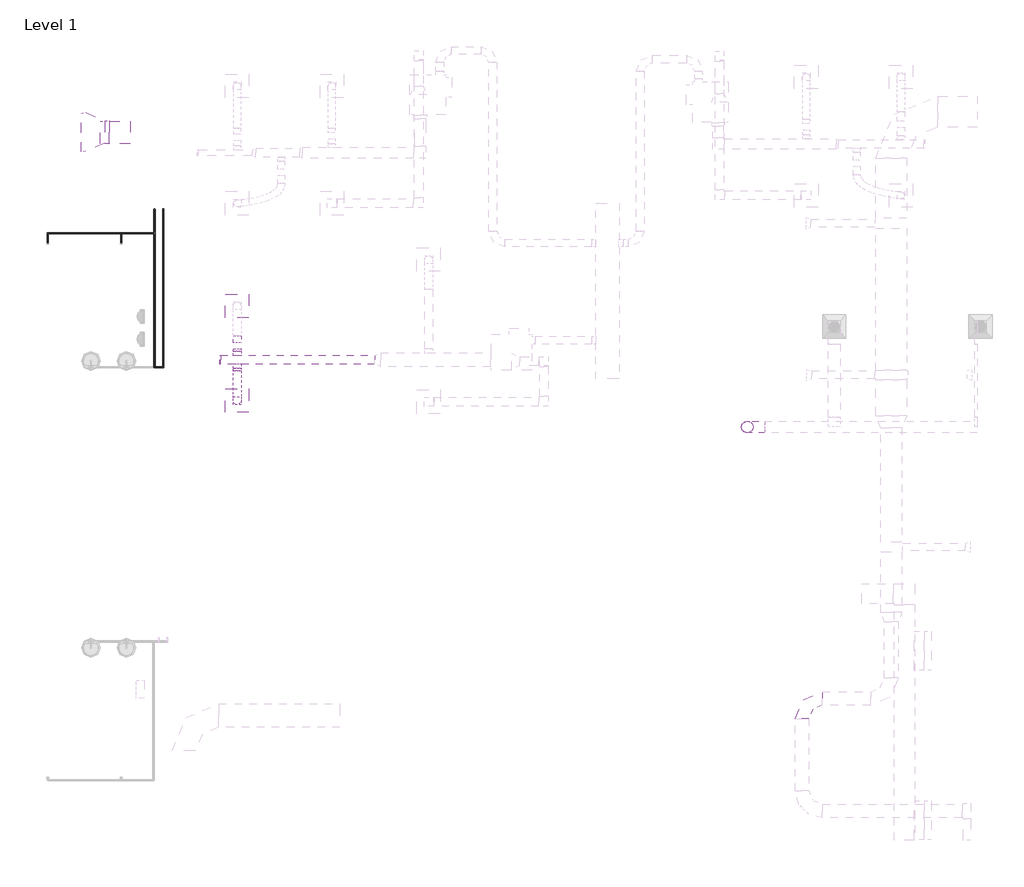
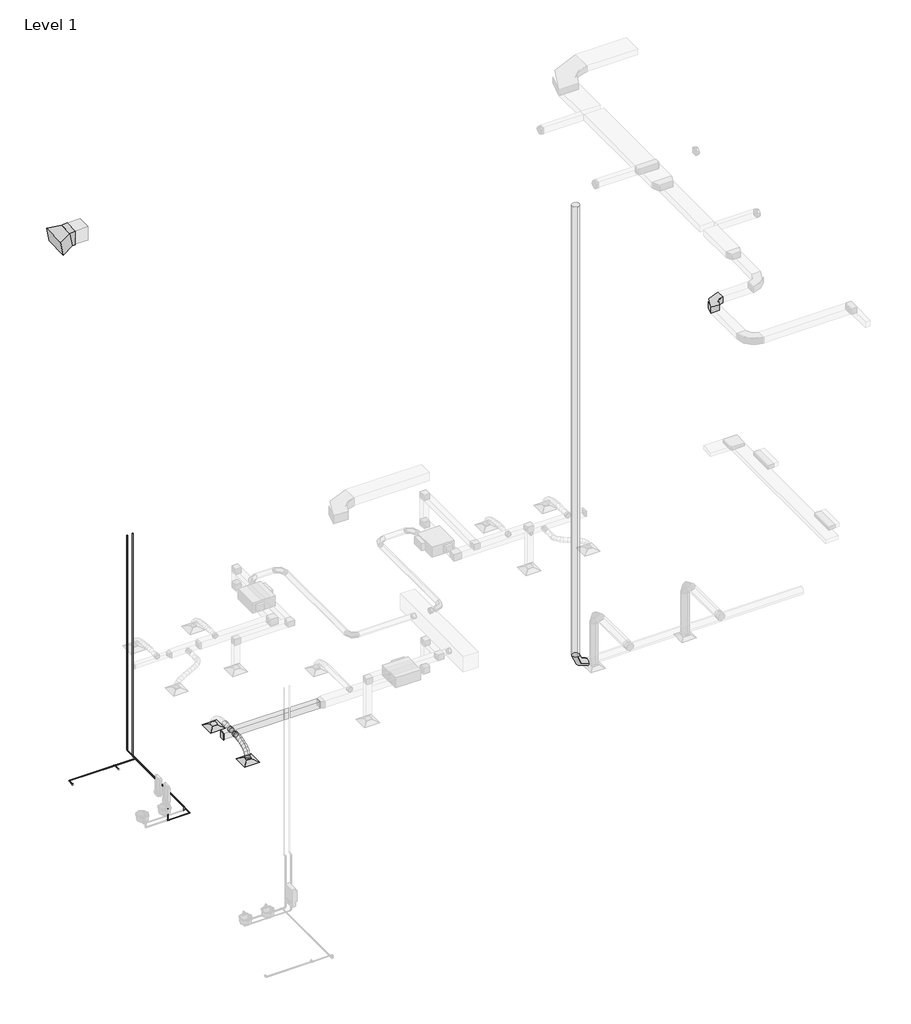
# One storey, part 2 of 7: 12 pipe segments, 11 pipe fittings, 8 duct fittings, 7 duct segments, 2 air terminals.
"""IFC4 building model written with IfcOpenShell, lengths in millimetres."""

from ifc_helpers import new_model, si_unit, point, frame, frame_2d, origin, place, context, project, spatial, polyline, circle_curve, ellipse_curve, trimmed, segment, composite_curve, outline, extrude, transform, mapped, element, save
from ifc_brep_helpers import plane_surface, cylinder_surface, advanced_brep
from components import return_diffuser_24_x_24_face_8_x_8_connection_c93705df, rectangular_elbow_radius_1_5_w_d691a628, rectangular_elbow_radius_1_5_w_30cb73b9, rectangular_endcap_standard_532db283, rectangular_transition_angle_45_degree_ff28eb7c, rectangular_to_round_transition_angle_45_degree_5a025447, round_elbow_1_5_d_ee9da881, round_takeoff_standard_1127d77f, round_takeoff_standard_d3b0d0f9, elbow_generic_standard_c06ac706, tee_generic_standard_d345b28c, transition_generic_standard_702676cc

model = new_model("IFC4")

# Units and contexts
model_context = context("Model", 3, world=origin())
ifc_project = project(units=[si_unit("LENGTHUNIT", "METRE", prefix="MILLI")], contexts=[model_context])

# Site, building, storey
site = spatial("IfcSite", under=ifc_project)
building = spatial("IfcBuilding", under=site)
storey = spatial("IfcBuildingStorey", under=building, Name="Level 1", Elevation=0.0)

# Air terminals
placement = place(None, origin())
return_diffuser_24_x_24_face_8_x_8_connection_shape = return_diffuser_24_x_24_face_8_x_8_connection_c93705df(model_context)
element("IfcAirTerminal", 1, ObjectType="Supply Diffuser : 24 x 24 Face 8 x 8 Connection", at=placement, inside=storey, context=model_context, shape_type="MappedRepresentation", body=[
    mapped(return_diffuser_24_x_24_face_8_x_8_connection_shape, transform((-14620.325255, 10539.2612109, 2438.4), x_axis=(1.0, 0.0, 0.0), y_axis=(0.0, 1.0, 0.0), z_axis=(0.0, 0.0, 1.0))),
])
element("IfcAirTerminal", 2, ObjectType="Supply Diffuser : 24 x 24 Face 8 x 8 Connection", at=placement, inside=storey, context=model_context, shape_type="MappedRepresentation", body=[
    mapped(return_diffuser_24_x_24_face_8_x_8_connection_shape, transform((-14620.325255, 8100.8612109, 2438.4), x_axis=(1.0, 0.0, 0.0), y_axis=(0.0, 1.0, 0.0), z_axis=(0.0, 0.0, 1.0))),
])

# Duct fittings
rectangular_elbow_radius_1_5_w_shape = rectangular_elbow_radius_1_5_w_d691a628(model_context)
element("IfcDuctFitting", 3, ObjectType="Rectangular Elbow - Radius : 1.5 W", at=placement, inside=storey, context=model_context, shape_type="MappedRepresentation", body=[
    mapped(rectangular_elbow_radius_1_5_w_shape, transform((-17998.712755, 15002.6239015, 22343.8), x_axis=(-1.0, 0.0, 0.0), y_axis=(0.0, 0.026356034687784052, -0.999652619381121), z_axis=(0.0, -0.999652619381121, -0.026356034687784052))),
])
rectangular_elbow_radius_1_5_w_2_shape = rectangular_elbow_radius_1_5_w_30cb73b9(model_context)
element("IfcDuctFitting", 4, ObjectType="Rectangular Elbow - Radius : 1.5 W", at=placement, inside=storey, context=model_context, shape_type="MappedRepresentation", body=[
    mapped(rectangular_elbow_radius_1_5_w_2_shape, transform((-86.1432457, 435.7629451, 21983.425), x_axis=(-1.0, 0.0, 0.0), y_axis=(0.0, -0.9999999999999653, 2.636309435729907e-07), z_axis=(0.0, 2.636309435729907e-07, 0.9999999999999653))),
])
rectangular_endcap_standard_shape = rectangular_endcap_standard_532db283(model_context)
element("IfcDuctFitting", 5, ObjectType="Rectangular Endcap : Standard", at=placement, inside=storey, context=model_context, shape_type="MappedRepresentation", body=[
    mapped(rectangular_endcap_standard_shape, transform((-15047.325255, 9153.5998073, 3048.0), x_axis=(-1.0, 0.0, 0.0), y_axis=(0.0, -1.0, 0.0), z_axis=(0.0, 0.0, 1.0))),
])
rectangular_transition_angle_45_degree_shape = rectangular_transition_angle_45_degree_ff28eb7c(model_context)
element("IfcDuctFitting", 6, ObjectType="Rectangular Transition - Angle : 45 Degree", at=placement, inside=storey, context=model_context, shape_type="MappedRepresentation", body=[
    mapped(rectangular_transition_angle_45_degree_shape, transform((-18082.9023685, 15003.0652692, 22327.059455), x_axis=(-0.9807852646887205, 0.005141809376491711, -0.19502263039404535), y_axis=(0.0, -0.9996526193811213, -0.026356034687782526), z_axis=(-0.19509040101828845, -0.02584961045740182, 0.9804445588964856))),
])
rectangular_to_round_transition_angle_45_degree_shape = rectangular_to_round_transition_angle_45_degree_5a025447(model_context)
element("IfcDuctFitting", 7, ObjectType="Rectangular to Round Transition - Angle : 45 Degree", at=placement, inside=storey, context=model_context, shape_type="MappedRepresentation", body=[
    mapped(rectangular_to_round_transition_angle_45_degree_shape, transform((-14620.325255, 8100.8612109, 2540.0), x_axis=(0.0, 0.0, 1.0), y_axis=(-1.0, 0.0, 0.0), z_axis=(0.0, -1.0, 0.0))),
])
round_elbow_1_5_d_shape = round_elbow_1_5_d_ee9da881(model_context)
element("IfcDuctFitting", 8, ObjectType="Round Elbow : 1.5 D", at=placement, inside=storey, context=model_context, shape_type="MappedRepresentation", body=[
    mapped(round_elbow_1_5_d_shape, transform((-1492.3180818, 7422.2278716, 2400.0), x_axis=(-1.0, 0.0, 0.0), y_axis=(0.0, 0.0, 1.0), z_axis=(0.0, 1.0, 0.0))),
])
round_takeoff_standard_shape = round_takeoff_standard_1127d77f(model_context)
element("IfcDuctFitting", 9, ObjectType="Round Takeoff : Standard", at=placement, inside=storey, context=model_context, shape_type="MappedRepresentation", body=[
    mapped(round_takeoff_standard_shape, transform((-14620.325255, 9039.0998073, 3048.0), x_axis=(0.0, -1.0, 0.0), y_axis=(-1.0, 0.0, 0.0), z_axis=(0.0, 0.0, -1.0))),
])
round_takeoff_standard_2_shape = round_takeoff_standard_d3b0d0f9(model_context)
element("IfcDuctFitting", 10, ObjectType="Round Takeoff : Standard", at=placement, inside=storey, context=model_context, shape_type="MappedRepresentation", body=[
    mapped(round_takeoff_standard_2_shape, transform((-14620.325255, 9268.0998073, 3048.0), x_axis=(0.0, 1.0, 0.0), y_axis=(1.0, 0.0, 0.0), z_axis=(0.0, 0.0, -1.0))),
])

# Duct segments
element("IfcDuctSegment", 11, ObjectType="Flex - Round", at=placement, inside=storey, context=model_context, shape_type="AdvancedBrep", body=[
    advanced_brep(
    [(-14518.725255, 8100.8612109, 2590.8), (-14620.325255, 7999.2612109, 2590.8), (-14721.925255, 8100.8612109, 2590.8), (-14620.325255, 8202.4612109, 2590.8), (-14518.725255, 8100.8612109, 2610.4697047), (-14620.325255, 7999.2612109, 2622.626995), (-14721.925255, 8100.8612109, 2610.4697047), (-14620.325255, 8202.4612109, 2598.3124144), (-14518.725255, 8121.5913432, 2695.8515957), (-14620.325255, 8026.7103626, 2735.6827365), (-14721.925255, 8121.5913432, 2695.8515957), (-14620.325255, 8216.4723238, 2656.0204548), (-14518.725255, 8178.7787616, 2787.7324467), (-14620.325255, 8099.959937, 2853.3700428), (-14721.925255, 8178.7787616, 2787.7324467), (-14620.325255, 8257.5975863, 2722.0948506), (-14518.725255, 8264.9189985, 2866.1848403), (-14620.325255, 8203.924368, 2948.0558571), (-14721.925255, 8264.9189985, 2866.1848403), (-14620.325255, 8325.9136289, 2784.3138235), (-14518.725255, 8372.507586, 2930.9510637), (-14620.325255, 8326.4647671, 3021.8227783), (-14721.925255, 8372.507586, 2930.9510637), (-14620.325255, 8418.5504049, 2840.0793491), (-14518.725255, 8494.0400564, 2981.7734042), (-14620.325255, 8460.3492598, 3077.8104765), (-14721.925255, 8494.0400564, 2981.7734042), (-14620.325255, 8527.7308531, 2885.7363319), (-14518.725255, 8622.0119422, 3018.3941489), (-14620.325255, 8599.2333167, 3117.5538745), (-14721.925255, 8622.0119422, 3018.3941489), (-14620.325255, 8644.7905677, 2919.2344233), (-14518.725255, 8748.9187754, 3040.5555851), (-14620.325255, 8736.7751572, 3141.5724766), (-14721.925255, 8748.9187754, 3040.5555851), (-14620.325255, 8761.0623936, 2939.5386936), (-14518.725255, 8860.8772014, 3048.0), (-14620.325255, 8857.503099, 3149.6), (-14721.925255, 8860.8772014, 3048.0), (-14620.325255, 8864.2513038, 2946.4), (-14518.725255, 8867.2560885, 3048.0), (-14620.325255, 8867.2560885, 3149.6), (-14721.925255, 8867.2560885, 3048.0), (-14620.325255, 8867.2560885, 2946.4)],
    [
        (0, 1, circle_curve(frame((-14620.325255, 8100.8612109, 2590.8), z_axis=(0.0, 0.0, -1.0), x_axis=(1.0, 0.0, 0.0)), 101.6)),
        (1, 2, circle_curve(frame((-14620.325255, 8100.8612109, 2590.8), z_axis=(0.0, 0.0, -1.0), x_axis=(1.0, 0.0, 0.0)), 101.6)),
        (2, 3, circle_curve(frame((-14620.325255, 8100.8612109, 2590.8), z_axis=(0.0, 0.0, -1.0), x_axis=(1.0, 0.0, 0.0)), 101.6)),
        (3, 0, circle_curve(frame((-14620.325255, 8100.8612109, 2590.8), z_axis=(0.0, 0.0, -1.0), x_axis=(1.0, 0.0, 0.0)), 101.6)),
        (0, 4),
        (4, 5, ellipse_curve(frame((-14620.325255, 8100.8612109, 2610.4697047), z_axis=(0.0, -0.11881081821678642, -0.9929169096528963), x_axis=(0.0, 0.9929169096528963, -0.11881081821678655)), 102.3247756, 101.6)),
        (5, 1),
        (5, 6, ellipse_curve(frame((-14620.325255, 8100.8612109, 2610.4697047), z_axis=(0.0, -0.11881081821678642, -0.9929169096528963), x_axis=(0.0, 0.9929169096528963, -0.11881081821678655)), 102.3247756, 101.6)),
        (6, 2),
        (6, 7, ellipse_curve(frame((-14620.325255, 8100.8612109, 2610.4697047), z_axis=(0.0, -0.11881081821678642, -0.9929169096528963), x_axis=(0.0, 0.9929169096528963, -0.11881081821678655)), 102.3247756, 101.6)),
        (7, 3),
        (7, 4, ellipse_curve(frame((-14620.325255, 8100.8612109, 2610.4697047), z_axis=(0.0, -0.11881081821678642, -0.9929169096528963), x_axis=(0.0, 0.9929169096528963, -0.11881081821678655)), 102.3247756, 101.6)),
        (4, 8),
        (8, 9, ellipse_curve(frame((-14620.325255, 8121.5913432, 2695.8515957), z_axis=(0.0, -0.3870765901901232, -0.922047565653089), x_axis=(0.0, 0.922047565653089, -0.3870765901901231)), 102.9024794, 101.6)),
        (9, 5),
        (9, 10, ellipse_curve(frame((-14620.325255, 8121.5913432, 2695.8515957), z_axis=(0.0, -0.3870765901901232, -0.922047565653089), x_axis=(0.0, 0.922047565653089, -0.3870765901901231)), 102.9024794, 101.6)),
        (10, 6),
        (10, 11, ellipse_curve(frame((-14620.325255, 8121.5913432, 2695.8515957), z_axis=(0.0, -0.3870765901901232, -0.922047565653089), x_axis=(0.0, 0.922047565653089, -0.3870765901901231)), 102.9024794, 101.6)),
        (11, 7),
        (11, 8, ellipse_curve(frame((-14620.325255, 8121.5913432, 2695.8515957), z_axis=(0.0, -0.3870765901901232, -0.922047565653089), x_axis=(0.0, 0.922047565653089, -0.3870765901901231)), 102.9024794, 101.6)),
        (8, 12),
        (12, 13, ellipse_curve(frame((-14620.325255, 8178.7787616, 2787.7324467), z_axis=(0.0, -0.639926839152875, -0.7684358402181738), x_axis=(0.0, 0.7684358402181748, -0.6399268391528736)), 102.5704692, 101.6)),
        (13, 9),
        (13, 14, ellipse_curve(frame((-14620.325255, 8178.7787616, 2787.7324467), z_axis=(0.0, -0.639926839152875, -0.7684358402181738), x_axis=(0.0, 0.7684358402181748, -0.6399268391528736)), 102.5704692, 101.6)),
        (14, 10),
        (14, 15, ellipse_curve(frame((-14620.325255, 8178.7787616, 2787.7324467), z_axis=(0.0, -0.639926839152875, -0.7684358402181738), x_axis=(0.0, 0.7684358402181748, -0.6399268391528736)), 102.5704692, 101.6)),
        (15, 11),
        (15, 12, ellipse_curve(frame((-14620.325255, 8178.7787616, 2787.7324467), z_axis=(0.0, -0.639926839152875, -0.7684358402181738), x_axis=(0.0, 0.7684358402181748, -0.6399268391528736)), 102.5704692, 101.6)),
        (12, 16),
        (16, 17, ellipse_curve(frame((-14620.325255, 8264.9189985, 2866.1848403), z_axis=(0.0, -0.8019171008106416, -0.5974353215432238), x_axis=(0.0, 0.5974353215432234, -0.801917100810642)), 102.0941151, 101.6)),
        (17, 13),
        (17, 18, ellipse_curve(frame((-14620.325255, 8264.9189985, 2866.1848403), z_axis=(0.0, -0.8019171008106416, -0.5974353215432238), x_axis=(0.0, 0.5974353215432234, -0.801917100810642)), 102.0941151, 101.6)),
        (18, 14),
        (18, 19, ellipse_curve(frame((-14620.325255, 8264.9189985, 2866.1848403), z_axis=(0.0, -0.8019171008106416, -0.5974353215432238), x_axis=(0.0, 0.5974353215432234, -0.801917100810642)), 102.0941151, 101.6)),
        (19, 15),
        (19, 16, ellipse_curve(frame((-14620.325255, 8264.9189985, 2866.1848403), z_axis=(0.0, -0.8019171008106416, -0.5974353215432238), x_axis=(0.0, 0.5974353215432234, -0.801917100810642)), 102.0941151, 101.6)),
        (16, 20),
        (20, 21, ellipse_curve(frame((-14620.325255, 8372.507586, 2930.9510637), z_axis=(0.0, -0.8920312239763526, -0.4519737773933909), x_axis=(0.0, 0.4519737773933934, -0.8920312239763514)), 101.8705536, 101.6)),
        (21, 17),
        (21, 22, ellipse_curve(frame((-14620.325255, 8372.507586, 2930.9510637), z_axis=(0.0, -0.8920312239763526, -0.4519737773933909), x_axis=(0.0, 0.4519737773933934, -0.8920312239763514)), 101.8705536, 101.6)),
        (22, 18),
        (22, 23, ellipse_curve(frame((-14620.325255, 8372.507586, 2930.9510637), z_axis=(0.0, -0.8920312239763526, -0.4519737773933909), x_axis=(0.0, 0.4519737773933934, -0.8920312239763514)), 101.8705536, 101.6)),
        (23, 19),
        (23, 20, ellipse_curve(frame((-14620.325255, 8372.507586, 2930.9510637), z_axis=(0.0, -0.8920312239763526, -0.4519737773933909), x_axis=(0.0, 0.4519737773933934, -0.8920312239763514)), 101.8705536, 101.6)),
        (20, 24),
        (24, 25, ellipse_curve(frame((-14620.325255, 8494.0400564, 2981.7734042), z_axis=(0.0, -0.9436196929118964, -0.3310315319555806), x_axis=(0.0, 0.3310315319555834, -0.9436196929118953)), 101.7751887, 101.6)),
        (25, 21),
        (25, 26, ellipse_curve(frame((-14620.325255, 8494.0400564, 2981.7734042), z_axis=(0.0, -0.9436196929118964, -0.3310315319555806), x_axis=(0.0, 0.3310315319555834, -0.9436196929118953)), 101.7751887, 101.6)),
        (26, 22),
        (26, 27, ellipse_curve(frame((-14620.325255, 8494.0400564, 2981.7734042), z_axis=(0.0, -0.9436196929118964, -0.3310315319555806), x_axis=(0.0, 0.3310315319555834, -0.9436196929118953)), 101.7751887, 101.6)),
        (27, 23),
        (27, 24, ellipse_curve(frame((-14620.325255, 8494.0400564, 2981.7734042), z_axis=(0.0, -0.9436196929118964, -0.3310315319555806), x_axis=(0.0, 0.3310315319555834, -0.9436196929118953)), 101.7751887, 101.6)),
        (24, 28),
        (28, 29, ellipse_curve(frame((-14620.325255, 8622.0119422, 3018.3941489), z_axis=(0.0, -0.9746155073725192, -0.22388526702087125), x_axis=(0.0, 0.22388526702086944, -0.9746155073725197)), 101.7424049, 101.6)),
        (29, 25),
        (29, 30, ellipse_curve(frame((-14620.325255, 8622.0119422, 3018.3941489), z_axis=(0.0, -0.9746155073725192, -0.22388526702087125), x_axis=(0.0, 0.22388526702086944, -0.9746155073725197)), 101.7424049, 101.6)),
        (30, 26),
        (30, 31, ellipse_curve(frame((-14620.325255, 8622.0119422, 3018.3941489), z_axis=(0.0, -0.9746155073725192, -0.22388526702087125), x_axis=(0.0, 0.22388526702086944, -0.9746155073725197)), 101.7424049, 101.6)),
        (31, 27),
        (31, 28, ellipse_curve(frame((-14620.325255, 8622.0119422, 3018.3941489), z_axis=(0.0, -0.9746155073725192, -0.22388526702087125), x_axis=(0.0, 0.22388526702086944, -0.9746155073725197)), 101.7424049, 101.6)),
        (28, 32),
        (32, 33, ellipse_curve(frame((-14620.325255, 8748.9187754, 3040.5555851), z_axis=(0.0, -0.9928517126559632, -0.11935441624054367), x_axis=(0.0, 0.11935441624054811, -0.9928517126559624)), 101.7441882, 101.6)),
        (33, 29),
        (33, 34, ellipse_curve(frame((-14620.325255, 8748.9187754, 3040.5555851), z_axis=(0.0, -0.9928517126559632, -0.11935441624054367), x_axis=(0.0, 0.11935441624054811, -0.9928517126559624)), 101.7441882, 101.6)),
        (34, 30),
        (34, 35, ellipse_curve(frame((-14620.325255, 8748.9187754, 3040.5555851), z_axis=(0.0, -0.9928517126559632, -0.11935441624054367), x_axis=(0.0, 0.11935441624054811, -0.9928517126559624)), 101.7441882, 101.6)),
        (35, 31),
        (35, 32, ellipse_curve(frame((-14620.325255, 8748.9187754, 3040.5555851), z_axis=(0.0, -0.9928517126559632, -0.11935441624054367), x_axis=(0.0, 0.11935441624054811, -0.9928517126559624)), 101.7441882, 101.6)),
        (32, 36),
        (36, 37, ellipse_curve(frame((-14620.325255, 8860.8772014, 3048.0), z_axis=(0.0, -0.9994490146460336, -0.0331913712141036), x_axis=(0.0, 0.03319137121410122, -0.9994490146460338)), 101.656011, 101.6)),
        (37, 33),
        (37, 38, ellipse_curve(frame((-14620.325255, 8860.8772014, 3048.0), z_axis=(0.0, -0.9994490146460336, -0.0331913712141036), x_axis=(0.0, 0.03319137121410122, -0.9994490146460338)), 101.656011, 101.6)),
        (38, 34),
        (38, 39, ellipse_curve(frame((-14620.325255, 8860.8772014, 3048.0), z_axis=(0.0, -0.9994490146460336, -0.0331913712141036), x_axis=(0.0, 0.03319137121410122, -0.9994490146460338)), 101.656011, 101.6)),
        (39, 35),
        (39, 36, ellipse_curve(frame((-14620.325255, 8860.8772014, 3048.0), z_axis=(0.0, -0.9994490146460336, -0.0331913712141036), x_axis=(0.0, 0.03319137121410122, -0.9994490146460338)), 101.656011, 101.6)),
        (36, 40),
        (40, 41, circle_curve(frame((-14620.325255, 8867.2560885, 3048.0), z_axis=(0.0, -1.0, 0.0), x_axis=(1.0, 0.0, 0.0)), 101.6)),
        (41, 37),
        (41, 42, circle_curve(frame((-14620.325255, 8867.2560885, 3048.0), z_axis=(0.0, -1.0, 0.0), x_axis=(1.0, 0.0, 0.0)), 101.6)),
        (42, 38),
        (42, 43, circle_curve(frame((-14620.325255, 8867.2560885, 3048.0), z_axis=(0.0, -1.0, 0.0), x_axis=(1.0, 0.0, 0.0)), 101.6)),
        (43, 39),
        (43, 40, circle_curve(frame((-14620.325255, 8867.2560885, 3048.0), z_axis=(0.0, -1.0, 0.0), x_axis=(1.0, 0.0, 0.0)), 101.6)),
    ],
    [
        plane_surface(frame((-14620.325255, 7999.2612109, 2590.8), z_axis=(0.0, 0.0, -1.0), x_axis=(1.0, 0.0, 0.0))),
        cylinder_surface(frame((-14620.325255, 8100.8612109, 2590.8), z_axis=(0.0, 0.0, -1.0), x_axis=(1.0, 0.0, 0.0)), 101.6),
        cylinder_surface(frame((-14620.325255, 8100.8612109, 2610.4697047), z_axis=(0.0, -0.2359385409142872, -0.9717679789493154), x_axis=(1.0, 0.0, 0.0)), 101.6),
        cylinder_surface(frame((-14620.325255, 8121.5913432, 2695.8515957), z_axis=(0.0, -0.5284158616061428, -0.8489856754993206), x_axis=(1.0, 0.0, 0.0)), 101.6),
        cylinder_surface(frame((-14620.325255, 8178.7787616, 2787.7324467), z_axis=(0.0, -0.7393284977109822, -0.6733449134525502), x_axis=(1.0, 0.0, 0.0)), 101.6),
        cylinder_surface(frame((-14620.325255, 8264.9189985, 2866.1848403), z_axis=(0.0, -0.8567434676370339, -0.5157427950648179), x_axis=(1.0, 0.0, 0.0)), 101.6),
        cylinder_surface(frame((-14620.325255, 8372.507586, 2930.9510637), z_axis=(0.0, -0.9225807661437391, -0.38580400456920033), x_axis=(1.0, 0.0, 0.0)), 101.6),
        cylinder_surface(frame((-14620.325255, 8494.0400564, 2981.7734042), z_axis=(0.0, -0.9614100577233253, -0.27511943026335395), x_axis=(1.0, 0.0, 0.0)), 101.6),
        cylinder_surface(frame((-14620.325255, 8622.0119422, 3018.3941489), z_axis=(0.0, -0.9850926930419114, -0.17202437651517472), x_axis=(1.0, 0.0, 0.0)), 101.6),
        cylinder_surface(frame((-14620.325255, 8748.9187754, 3040.5555851), z_axis=(0.0, -0.9977966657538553, -0.06634616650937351), x_axis=(1.0, 0.0, 0.0)), 101.6),
        cylinder_surface(frame((-14620.325255, 8860.8772014, 3048.0), z_axis=(0.0, -1.0, 0.0), x_axis=(1.0, 0.0, 0.0)), 101.6),
        plane_surface(frame((-14721.925255, 8867.2560885, 3048.0), z_axis=(0.0, 1.0, 0.0), x_axis=(0.0, 0.0, 1.0))),
    ],
    [
        (0, [[1, 2, 3, 4]]),
        (1, [[-1, 5, 6, 7]]),
        (1, [[-2, -7, 8, 9]]),
        (1, [[-3, -9, 10, 11]]),
        (1, [[-4, -11, 12, -5]]),
        (2, [[-6, 13, 14, 15]]),
        (2, [[-8, -15, 16, 17]]),
        (2, [[-10, -17, 18, 19]]),
        (2, [[-12, -19, 20, -13]]),
        (3, [[-14, 21, 22, 23]]),
        (3, [[-16, -23, 24, 25]]),
        (3, [[-18, -25, 26, 27]]),
        (3, [[-20, -27, 28, -21]]),
        (4, [[-22, 29, 30, 31]]),
        (4, [[-24, -31, 32, 33]]),
        (4, [[-26, -33, 34, 35]]),
        (4, [[-28, -35, 36, -29]]),
        (5, [[-30, 37, 38, 39]]),
        (5, [[-32, -39, 40, 41]]),
        (5, [[-34, -41, 42, 43]]),
        (5, [[-36, -43, 44, -37]]),
        (6, [[-38, 45, 46, 47]]),
        (6, [[-40, -47, 48, 49]]),
        (6, [[-42, -49, 50, 51]]),
        (6, [[-44, -51, 52, -45]]),
        (7, [[-46, 53, 54, 55]]),
        (7, [[-48, -55, 56, 57]]),
        (7, [[-50, -57, 58, 59]]),
        (7, [[-52, -59, 60, -53]]),
        (8, [[-54, 61, 62, 63]]),
        (8, [[-56, -63, 64, 65]]),
        (8, [[-58, -65, 66, 67]]),
        (8, [[-60, -67, 68, -61]]),
        (9, [[-62, 69, 70, 71]]),
        (9, [[-64, -71, 72, 73]]),
        (9, [[-66, -73, 74, 75]]),
        (9, [[-68, -75, 76, -69]]),
        (10, [[-70, 77, 78, 79]]),
        (10, [[-72, -79, 80, 81]]),
        (10, [[-74, -81, 82, 83]]),
        (10, [[-76, -83, 84, -77]]),
        (11, [[-84, -82, -80, -78]]),
    ],
),
])
element("IfcDuctSegment", 12, ObjectType="Mitered Elbows / Tees", at=placement, inside=storey, context=model_context, shape_type="SweptSolid", body=[
    extrude(outline(polyline([(-15047.325255, 9039.0998073), (-15047.325255, 9268.0998073), (-11083.4021344, 9268.0998073), (-11083.4021344, 9039.0998073), (-15047.325255, 9039.0998073)])), frame((0.0, 0.0, 2908.5), z_axis=(0.0, 0.0, 1.0), x_axis=(1.0, 0.0, 0.0)), (0.0, 0.0, 1.0), 279.0),
])
element("IfcDuctSegment", 13, ObjectType="Radius Elbows / Taps", at=placement, inside=storey, context=model_context, shape_type="SweptSolid", body=[
    extrude(outline(polyline([(-17375.0230245, 15293.1364015), (-17375.0230245, 14712.1114015), (-17912.8737681, 14712.1114015), (-17912.8737681, 15293.1364015), (-17375.0230245, 15293.1364015)])), frame((0.0, 0.0, 22053.2875), z_axis=(0.0, 0.0, 1.0), x_axis=(1.0, 0.0, 0.0)), (0.0, 0.0, 1.0), 581.025),
])
element("IfcDuctSegment", 14, ObjectType="Taps", at=placement, inside=storey, context=model_context, shape_type="SweptSolid", body=[
    extrude(outline(composite_curve([segment(trimmed(circle_curve(frame_2d((-1492.3180818, 7422.2278716)), 150.0), [point((-1492.3180818, 7272.2278716))], [point((-1642.3180818, 7422.2278716))], False, "CARTESIAN"), True, "CONTINUOUS"), segment(trimmed(circle_curve(frame_2d((-1492.3180818, 7422.2278716)), 150.0), [point((-1642.3180818, 7422.2278716))], [point((-1492.3180818, 7572.2278716))], False, "CARTESIAN"), True, "CONTINUOUS"), segment(trimmed(circle_curve(frame_2d((-1492.3180818, 7422.2278716)), 150.0), [point((-1492.3180818, 7572.2278716))], [point((-1342.3180818, 7422.2278716))], False, "CARTESIAN"), True, "CONTINUOUS"), segment(trimmed(circle_curve(frame_2d((-1492.3180818, 7422.2278716)), 150.0), [point((-1342.3180818, 7422.2278716))], [point((-1492.3180818, 7272.2278716))], False, "CARTESIAN"), True, "CONTINUOUS")], self_intersect=False)), frame((0.0, 0.0, 2850.0), z_axis=(0.0, 0.0, 1.0), x_axis=(1.0, 0.0, 0.0)), (0.0, 0.0, 1.0), 19591.8),
])
element("IfcDuctSegment", 15, ObjectType="Taps", at=placement, inside=storey, context=model_context, shape_type="SweptSolid", body=[
    extrude(outline(composite_curve([segment(trimmed(circle_curve(frame_2d((3048.0, -14620.325255)), 101.6), [point((3048.0, -14721.925255))], [point((2946.4, -14620.325255))], False, "CARTESIAN"), True, "CONTINUOUS"), segment(trimmed(circle_curve(frame_2d((3048.0, -14620.325255)), 101.6), [point((2946.4, -14620.325255))], [point((3048.0, -14518.725255))], False, "CARTESIAN"), True, "CONTINUOUS"), segment(trimmed(circle_curve(frame_2d((3048.0, -14620.325255)), 101.6), [point((3048.0, -14518.725255))], [point((3149.6, -14620.325255))], False, "CARTESIAN"), True, "CONTINUOUS"), segment(trimmed(circle_curve(frame_2d((3048.0, -14620.325255)), 101.6), [point((3149.6, -14620.325255))], [point((3048.0, -14721.925255))], False, "CARTESIAN"), True, "CONTINUOUS")], self_intersect=False)), frame((0.0, 8867.2560885, 0.0), z_axis=(0.0, 1.0, 0.0), x_axis=(0.0, 0.0, 1.0)), (0.0, 0.0, 1.0), 70.2437188),
])
element("IfcDuctSegment", 16, ObjectType="Taps", at=placement, inside=storey, context=model_context, shape_type="SweptSolid", body=[
    extrude(outline(composite_curve([segment(trimmed(circle_curve(frame_2d((3048.0, -14620.325255)), 101.6), [point((3048.0, -14518.725255))], [point((3149.6, -14620.325255))], False, "CARTESIAN"), True, "CONTINUOUS"), segment(trimmed(circle_curve(frame_2d((3048.0, -14620.325255)), 101.6), [point((3149.6, -14620.325255))], [point((3048.0, -14721.925255))], False, "CARTESIAN"), True, "CONTINUOUS"), segment(trimmed(circle_curve(frame_2d((3048.0, -14620.325255)), 101.6), [point((3048.0, -14721.925255))], [point((2946.4, -14620.325255))], False, "CARTESIAN"), True, "CONTINUOUS"), segment(trimmed(circle_curve(frame_2d((3048.0, -14620.325255)), 101.6), [point((2946.4, -14620.325255))], [point((3048.0, -14518.725255))], False, "CARTESIAN"), True, "CONTINUOUS")], self_intersect=False)), frame((0.0, 9595.0122763, 0.0), z_axis=(0.0, 1.0, 0.0), x_axis=(0.0, 0.0, 1.0)), (0.0, 0.0, 1.0), 177.8540571),
])
element("IfcDuctSegment", 17, ObjectType="Taps", at=placement, inside=storey, context=model_context, shape_type="SweptSolid", body=[
    extrude(outline(composite_curve([segment(trimmed(circle_curve(frame_2d((3048.0, -14620.325255)), 101.6), [point((3048.0, -14518.725255))], [point((3149.6, -14620.325255))], False, "CARTESIAN"), True, "CONTINUOUS"), segment(trimmed(circle_curve(frame_2d((3048.0, -14620.325255)), 101.6), [point((3149.6, -14620.325255))], [point((3048.0, -14721.925255))], False, "CARTESIAN"), True, "CONTINUOUS"), segment(trimmed(circle_curve(frame_2d((3048.0, -14620.325255)), 101.6), [point((3048.0, -14721.925255))], [point((2946.4, -14620.325255))], False, "CARTESIAN"), True, "CONTINUOUS"), segment(trimmed(circle_curve(frame_2d((3048.0, -14620.325255)), 101.6), [point((2946.4, -14620.325255))], [point((3048.0, -14518.725255))], False, "CARTESIAN"), True, "CONTINUOUS")], self_intersect=False)), frame((0.0, 9369.6998073, 0.0), z_axis=(0.0, 1.0, 0.0), x_axis=(0.0, 0.0, 1.0)), (0.0, 0.0, 1.0), 72.9124689),
])

# Pipe fittings
elbow_generic_standard_shape = elbow_generic_standard_c06ac706(model_context)
element("IfcPipeFitting", 18, ObjectType="Elbow - Generic : Standard", at=placement, inside=storey, context=model_context, shape_type="MappedRepresentation", body=[
    mapped(elbow_generic_standard_shape, transform((-19498.712755, 12414.0612109, 646.0), x_axis=(-1.0, 0.0, 0.0), y_axis=(0.0, -1.0, 0.0), z_axis=(0.0, 0.0, 1.0))),
])
element("IfcPipeFitting", 19, ObjectType="Elbow - Generic : Standard", at=placement, inside=storey, context=model_context, shape_type="MappedRepresentation", body=[
    mapped(elbow_generic_standard_shape, transform((-16747.2516493, 13027.3987109, 646.0), x_axis=(0.0, 1.0, 0.0), y_axis=(0.0, 0.0, 1.0), z_axis=(1.0, 0.0, 0.0))),
])
element("IfcPipeFitting", 20, ObjectType="Elbow - Generic : Standard", at=placement, inside=storey, context=model_context, shape_type="MappedRepresentation", body=[
    mapped(elbow_generic_standard_shape, transform((-16747.2516493, 8956.675, 500.0), x_axis=(1.0, 0.0, 0.0), y_axis=(0.0, 0.0, 1.0), z_axis=(0.0, -1.0, 0.0))),
])
element("IfcPipeFitting", 21, ObjectType="Elbow - Generic : Standard", at=placement, inside=storey, context=model_context, shape_type="MappedRepresentation", body=[
    mapped(elbow_generic_standard_shape, transform((-16747.2516493, 8956.675, 646.0), x_axis=(0.0, 0.0, 1.0), y_axis=(0.0, 1.0, 0.0), z_axis=(-1.0, 0.0, 0.0))),
])
element("IfcPipeFitting", 22, ObjectType="Elbow - Generic : Standard", at=placement, inside=storey, context=model_context, shape_type="MappedRepresentation", body=[
    mapped(elbow_generic_standard_shape, transform((-16518.1918948, 8956.675, 300.0), x_axis=(1.0, 0.0, 0.0), y_axis=(0.0, 1.0, 0.0), z_axis=(0.0, 0.0, 1.0))),
])
element("IfcPipeFitting", 23, ObjectType="Elbow - Generic : Standard", at=placement, inside=storey, context=model_context, shape_type="MappedRepresentation", body=[
    mapped(elbow_generic_standard_shape, transform((-16518.1918948, 13027.3987109, 300.0), x_axis=(0.0, 1.0, 0.0), y_axis=(0.0, 0.0, 1.0), z_axis=(1.0, 0.0, 0.0))),
])
tee_generic_standard_shape = tee_generic_standard_d345b28c(model_context)
element("IfcPipeFitting", 24, ObjectType="Tee - Generic : Standard", at=placement, inside=storey, context=model_context, shape_type="MappedRepresentation", body=[
    mapped(tee_generic_standard_shape, transform((-17419.087755, 8956.675, 300.0), x_axis=(1.0, 0.0, 0.0), y_axis=(0.0, 0.0, -1.0), z_axis=(0.0, 1.0, 0.0))),
])
element("IfcPipeFitting", 25, ObjectType="Tee - Generic : Standard", at=placement, inside=storey, context=model_context, shape_type="MappedRepresentation", body=[
    mapped(tee_generic_standard_shape, transform((-17606.9391493, 12414.0612109, 646.0), x_axis=(1.0, 0.0, 0.0), y_axis=(0.0, 1.0, 0.0), z_axis=(0.0, 0.0, 1.0))),
])
element("IfcPipeFitting", 26, ObjectType="Tee - Generic : Standard", at=placement, inside=storey, context=model_context, shape_type="MappedRepresentation", body=[
    mapped(tee_generic_standard_shape, transform((-16747.2516493, 12414.0612109, 646.0), x_axis=(0.0, -1.0, 0.0), y_axis=(1.0, 0.0, 0.0), z_axis=(0.0, 0.0, 1.0))),
])
transition_generic_standard_shape = transition_generic_standard_702676cc(model_context)
element("IfcPipeFitting", 27, ObjectType="Transition - Generic : Standard", at=placement, inside=storey, context=model_context, shape_type="MappedRepresentation", body=[
    mapped(transition_generic_standard_shape, transform((-19498.712755, 12147.3987109, 646.0), x_axis=(0.0, 1.0, 0.0), y_axis=(-1.0, 0.0, 0.0), z_axis=(0.0, 0.0, 1.0))),
])
element("IfcPipeFitting", 28, ObjectType="Transition - Generic : Standard", at=placement, inside=storey, context=model_context, shape_type="MappedRepresentation", body=[
    mapped(transition_generic_standard_shape, transform((-17606.9391493, 12147.3987109, 646.0), x_axis=(0.0, 1.0, 0.0), y_axis=(-1.0, 0.0, 0.0), z_axis=(0.0, 0.0, 1.0))),
])

# Pipe segments
element("IfcPipeSegment", 29, ObjectType="Standard", at=placement, inside=storey, context=model_context, shape_type="SweptSolid", body=[
    extrude(outline(composite_curve([segment(trimmed(circle_curve(frame_2d((646.0, -17606.9391493)), 14.2875), [point((646.0, -17621.2266493))], [point((631.7125, -17606.9391493))], False, "CARTESIAN"), True, "CONTINUOUS"), segment(trimmed(circle_curve(frame_2d((646.0, -17606.9391493)), 14.2875), [point((631.7125, -17606.9391493))], [point((646.0, -17592.6516493))], False, "CARTESIAN"), True, "CONTINUOUS"), segment(trimmed(circle_curve(frame_2d((646.0, -17606.9391493)), 14.2875), [point((646.0, -17592.6516493))], [point((660.2875, -17606.9391493))], False, "CARTESIAN"), True, "CONTINUOUS"), segment(trimmed(circle_curve(frame_2d((646.0, -17606.9391493)), 14.2875), [point((660.2875, -17606.9391493))], [point((646.0, -17621.2266493))], False, "CARTESIAN"), True, "CONTINUOUS")], self_intersect=False)), frame((0.0, 12160.8924609, 0.0), z_axis=(0.0, 1.0, 0.0), x_axis=(0.0, 0.0, 1.0)), (0.0, 0.0, 1.0), 226.18125),
])
element("IfcPipeSegment", 30, ObjectType="Standard", at=placement, inside=storey, context=model_context, shape_type="SweptSolid", body=[
    extrude(outline(composite_curve([segment(trimmed(circle_curve(frame_2d((646.0, -19498.712755)), 14.2875), [point((646.0, -19513.000255))], [point((631.7125, -19498.712755))], False, "CARTESIAN"), True, "CONTINUOUS"), segment(trimmed(circle_curve(frame_2d((646.0, -19498.712755)), 14.2875), [point((631.7125, -19498.712755))], [point((646.0, -19484.425255))], False, "CARTESIAN"), True, "CONTINUOUS"), segment(trimmed(circle_curve(frame_2d((646.0, -19498.712755)), 14.2875), [point((646.0, -19484.425255))], [point((660.2875, -19498.712755))], False, "CARTESIAN"), True, "CONTINUOUS"), segment(trimmed(circle_curve(frame_2d((646.0, -19498.712755)), 14.2875), [point((660.2875, -19498.712755))], [point((646.0, -19513.000255))], False, "CARTESIAN"), True, "CONTINUOUS")], self_intersect=False)), frame((0.0, 12160.8924609, 0.0), z_axis=(0.0, 1.0, 0.0), x_axis=(0.0, 0.0, 1.0)), (0.0, 0.0, 1.0), 232.53125),
])
element("IfcPipeSegment", 31, ObjectType="Standard", at=placement, inside=storey, context=model_context, shape_type="SweptSolid", body=[
    extrude(outline(composite_curve([segment(trimmed(circle_curve(frame_2d((-17419.087755, 8956.675)), 14.2875), [point((-17404.800255, 8956.675))], [point((-17419.087755, 8942.3875))], False, "CARTESIAN"), True, "CONTINUOUS"), segment(trimmed(circle_curve(frame_2d((-17419.087755, 8956.675)), 14.2875), [point((-17419.087755, 8942.3875))], [point((-17433.375255, 8956.675))], False, "CARTESIAN"), True, "CONTINUOUS"), segment(trimmed(circle_curve(frame_2d((-17419.087755, 8956.675)), 14.2875), [point((-17433.375255, 8956.675))], [point((-17419.087755, 8970.9625))], False, "CARTESIAN"), True, "CONTINUOUS"), segment(trimmed(circle_curve(frame_2d((-17419.087755, 8956.675)), 14.2875), [point((-17419.087755, 8970.9625))], [point((-17404.800255, 8956.675))], False, "CARTESIAN"), True, "CONTINUOUS")], self_intersect=False)), frame((0.0, 0.0, 326.9875), z_axis=(0.0, 0.0, 1.0), x_axis=(1.0, 0.0, 0.0)), (0.0, 0.0, 1.0), 469.9375),
])
element("IfcPipeSegment", 32, ObjectType="Standard", at=placement, inside=storey, context=model_context, shape_type="SweptSolid", body=[
    extrude(outline(composite_curve([segment(trimmed(circle_curve(frame_2d((8956.675, 300.0)), 14.2875), [point((8970.9625, 300.0))], [point((8956.675, 285.7125))], False, "CARTESIAN"), True, "CONTINUOUS"), segment(trimmed(circle_curve(frame_2d((8956.675, 300.0)), 14.2875), [point((8956.675, 285.7125))], [point((8942.3875, 300.0))], False, "CARTESIAN"), True, "CONTINUOUS"), segment(trimmed(circle_curve(frame_2d((8956.675, 300.0)), 14.2875), [point((8942.3875, 300.0))], [point((8956.675, 314.2875))], False, "CARTESIAN"), True, "CONTINUOUS"), segment(trimmed(circle_curve(frame_2d((8956.675, 300.0)), 14.2875), [point((8956.675, 314.2875))], [point((8970.9625, 300.0))], False, "CARTESIAN"), True, "CONTINUOUS")], self_intersect=False)), frame((-17392.100255, 0.0, 0.0), z_axis=(1.0, 0.0, 0.0), x_axis=(0.0, 1.0, 0.0)), (0.0, 0.0, 1.0), 853.2708601),
])
element("IfcPipeSegment", 33, ObjectType="Standard", at=placement, inside=storey, context=model_context, shape_type="SweptSolid", body=[
    extrude(outline(composite_curve([segment(trimmed(circle_curve(frame_2d((12414.0612109, 646.0)), 14.2875), [point((12428.3487109, 646.0))], [point((12414.0612109, 631.7125))], False, "CARTESIAN"), True, "CONTINUOUS"), segment(trimmed(circle_curve(frame_2d((12414.0612109, 646.0)), 14.2875), [point((12414.0612109, 631.7125))], [point((12399.7737109, 646.0))], False, "CARTESIAN"), True, "CONTINUOUS"), segment(trimmed(circle_curve(frame_2d((12414.0612109, 646.0)), 14.2875), [point((12399.7737109, 646.0))], [point((12414.0612109, 660.2875))], False, "CARTESIAN"), True, "CONTINUOUS"), segment(trimmed(circle_curve(frame_2d((12414.0612109, 646.0)), 14.2875), [point((12414.0612109, 660.2875))], [point((12428.3487109, 646.0))], False, "CARTESIAN"), True, "CONTINUOUS")], self_intersect=False)), frame((-19478.075255, 0.0, 0.0), z_axis=(1.0, 0.0, 0.0), x_axis=(0.0, 1.0, 0.0)), (0.0, 0.0, 1.0), 1844.1486057),
])
element("IfcPipeSegment", 34, ObjectType="Standard", at=placement, inside=storey, context=model_context, shape_type="SweptSolid", body=[
    extrude(outline(composite_curve([segment(trimmed(circle_curve(frame_2d((12414.0612109, 646.0)), 14.2875), [point((12399.7737109, 646.0))], [point((12414.0612109, 660.2875))], False, "CARTESIAN"), True, "CONTINUOUS"), segment(trimmed(circle_curve(frame_2d((12414.0612109, 646.0)), 14.2875), [point((12414.0612109, 660.2875))], [point((12428.3487109, 646.0))], False, "CARTESIAN"), True, "CONTINUOUS"), segment(trimmed(circle_curve(frame_2d((12414.0612109, 646.0)), 14.2875), [point((12428.3487109, 646.0))], [point((12414.0612109, 631.7125))], False, "CARTESIAN"), True, "CONTINUOUS"), segment(trimmed(circle_curve(frame_2d((12414.0612109, 646.0)), 14.2875), [point((12414.0612109, 631.7125))], [point((12399.7737109, 646.0))], False, "CARTESIAN"), True, "CONTINUOUS")], self_intersect=False)), frame((-17579.9516493, 0.0, 0.0), z_axis=(1.0, 0.0, 0.0), x_axis=(0.0, 1.0, 0.0)), (0.0, 0.0, 1.0), 805.7125),
])
element("IfcPipeSegment", 35, ObjectType="Standard", at=placement, inside=storey, context=model_context, shape_type="SweptSolid", body=[
    extrude(outline(composite_curve([segment(trimmed(circle_curve(frame_2d((646.0, -16747.2516493)), 14.2875), [point((646.0, -16732.9641493))], [point((660.2875, -16747.2516493))], False, "CARTESIAN"), True, "CONTINUOUS"), segment(trimmed(circle_curve(frame_2d((646.0, -16747.2516493)), 14.2875), [point((660.2875, -16747.2516493))], [point((646.0, -16761.5391493))], False, "CARTESIAN"), True, "CONTINUOUS"), segment(trimmed(circle_curve(frame_2d((646.0, -16747.2516493)), 14.2875), [point((646.0, -16761.5391493))], [point((631.7125, -16747.2516493))], False, "CARTESIAN"), True, "CONTINUOUS"), segment(trimmed(circle_curve(frame_2d((646.0, -16747.2516493)), 14.2875), [point((631.7125, -16747.2516493))], [point((646.0, -16732.9641493))], False, "CARTESIAN"), True, "CONTINUOUS")], self_intersect=False)), frame((0.0, 12441.0487109, 0.0), z_axis=(0.0, 1.0, 0.0), x_axis=(0.0, 0.0, 1.0)), (0.0, 0.0, 1.0), 565.7125),
])
element("IfcPipeSegment", 36, ObjectType="Standard", at=placement, inside=storey, context=model_context, shape_type="SweptSolid", body=[
    extrude(outline(composite_curve([segment(trimmed(circle_curve(frame_2d((-16747.2516493, 13027.3987109)), 14.2875), [point((-16732.9641493, 13027.3987109))], [point((-16747.2516493, 13013.1112109))], False, "CARTESIAN"), True, "CONTINUOUS"), segment(trimmed(circle_curve(frame_2d((-16747.2516493, 13027.3987109)), 14.2875), [point((-16747.2516493, 13013.1112109))], [point((-16761.5391493, 13027.3987109))], False, "CARTESIAN"), True, "CONTINUOUS"), segment(trimmed(circle_curve(frame_2d((-16747.2516493, 13027.3987109)), 14.2875), [point((-16761.5391493, 13027.3987109))], [point((-16747.2516493, 13041.6862109))], False, "CARTESIAN"), True, "CONTINUOUS"), segment(trimmed(circle_curve(frame_2d((-16747.2516493, 13027.3987109)), 14.2875), [point((-16747.2516493, 13041.6862109))], [point((-16732.9641493, 13027.3987109))], False, "CARTESIAN"), True, "CONTINUOUS")], self_intersect=False)), frame((0.0, 0.0, 666.6375), z_axis=(0.0, 0.0, 1.0), x_axis=(1.0, 0.0, 0.0)), (0.0, 0.0, 1.0), 9333.3625),
])
element("IfcPipeSegment", 37, ObjectType="Standard", at=placement, inside=storey, context=model_context, shape_type="SweptSolid", body=[
    extrude(outline(composite_curve([segment(trimmed(circle_curve(frame_2d((646.0, -16747.2516493)), 14.2875), [point((646.0, -16732.9641493))], [point((660.2875, -16747.2516493))], False, "CARTESIAN"), True, "CONTINUOUS"), segment(trimmed(circle_curve(frame_2d((646.0, -16747.2516493)), 14.2875), [point((660.2875, -16747.2516493))], [point((646.0, -16761.5391493))], False, "CARTESIAN"), True, "CONTINUOUS"), segment(trimmed(circle_curve(frame_2d((646.0, -16747.2516493)), 14.2875), [point((646.0, -16761.5391493))], [point((631.7125, -16747.2516493))], False, "CARTESIAN"), True, "CONTINUOUS"), segment(trimmed(circle_curve(frame_2d((646.0, -16747.2516493)), 14.2875), [point((631.7125, -16747.2516493))], [point((646.0, -16732.9641493))], False, "CARTESIAN"), True, "CONTINUOUS")], self_intersect=False)), frame((0.0, 8977.3125, 0.0), z_axis=(0.0, 1.0, 0.0), x_axis=(0.0, 0.0, 1.0)), (0.0, 0.0, 1.0), 3409.7612109),
])
element("IfcPipeSegment", 38, ObjectType="Standard", at=placement, inside=storey, context=model_context, shape_type="SweptSolid", body=[
    extrude(outline(composite_curve([segment(trimmed(circle_curve(frame_2d((-16747.2516493, 8956.675)), 14.2875), [point((-16761.5391493, 8956.675))], [point((-16747.2516493, 8970.9625))], False, "CARTESIAN"), True, "CONTINUOUS"), segment(trimmed(circle_curve(frame_2d((-16747.2516493, 8956.675)), 14.2875), [point((-16747.2516493, 8970.9625))], [point((-16732.9641493, 8956.675))], False, "CARTESIAN"), True, "CONTINUOUS"), segment(trimmed(circle_curve(frame_2d((-16747.2516493, 8956.675)), 14.2875), [point((-16732.9641493, 8956.675))], [point((-16747.2516493, 8942.3875))], False, "CARTESIAN"), True, "CONTINUOUS"), segment(trimmed(circle_curve(frame_2d((-16747.2516493, 8956.675)), 14.2875), [point((-16747.2516493, 8942.3875))], [point((-16761.5391493, 8956.675))], False, "CARTESIAN"), True, "CONTINUOUS")], self_intersect=False)), frame((0.0, 0.0, 520.6375), z_axis=(0.0, 0.0, 1.0), x_axis=(1.0, 0.0, 0.0)), (0.0, 0.0, 1.0), 104.725),
])
element("IfcPipeSegment", 39, ObjectType="Standard", at=placement, inside=storey, context=model_context, shape_type="SweptSolid", body=[
    extrude(outline(composite_curve([segment(trimmed(circle_curve(frame_2d((300.0, -16518.1918948)), 14.2875), [point((300.0, -16503.9043948))], [point((314.2875, -16518.1918948))], False, "CARTESIAN"), True, "CONTINUOUS"), segment(trimmed(circle_curve(frame_2d((300.0, -16518.1918948)), 14.2875), [point((314.2875, -16518.1918948))], [point((300.0, -16532.4793948))], False, "CARTESIAN"), True, "CONTINUOUS"), segment(trimmed(circle_curve(frame_2d((300.0, -16518.1918948)), 14.2875), [point((300.0, -16532.4793948))], [point((285.7125, -16518.1918948))], False, "CARTESIAN"), True, "CONTINUOUS"), segment(trimmed(circle_curve(frame_2d((300.0, -16518.1918948)), 14.2875), [point((285.7125, -16518.1918948))], [point((300.0, -16503.9043948))], False, "CARTESIAN"), True, "CONTINUOUS")], self_intersect=False)), frame((0.0, 8977.3125, 0.0), z_axis=(0.0, 1.0, 0.0), x_axis=(0.0, 0.0, 1.0)), (0.0, 0.0, 1.0), 4029.4487109),
])
element("IfcPipeSegment", 40, ObjectType="Standard", at=placement, inside=storey, context=model_context, shape_type="SweptSolid", body=[
    extrude(outline(composite_curve([segment(trimmed(circle_curve(frame_2d((-16518.1918948, 13027.3987109)), 14.2875), [point((-16503.9043948, 13027.3987109))], [point((-16518.1918948, 13013.1112109))], False, "CARTESIAN"), True, "CONTINUOUS"), segment(trimmed(circle_curve(frame_2d((-16518.1918948, 13027.3987109)), 14.2875), [point((-16518.1918948, 13013.1112109))], [point((-16532.4793948, 13027.3987109))], False, "CARTESIAN"), True, "CONTINUOUS"), segment(trimmed(circle_curve(frame_2d((-16518.1918948, 13027.3987109)), 14.2875), [point((-16532.4793948, 13027.3987109))], [point((-16518.1918948, 13041.6862109))], False, "CARTESIAN"), True, "CONTINUOUS"), segment(trimmed(circle_curve(frame_2d((-16518.1918948, 13027.3987109)), 14.2875), [point((-16518.1918948, 13041.6862109))], [point((-16503.9043948, 13027.3987109))], False, "CARTESIAN"), True, "CONTINUOUS")], self_intersect=False)), frame((0.0, 0.0, 320.6375), z_axis=(0.0, 0.0, 1.0), x_axis=(1.0, 0.0, 0.0)), (0.0, 0.0, 1.0), 9679.3625),
])

save(model, "model.ifc")
